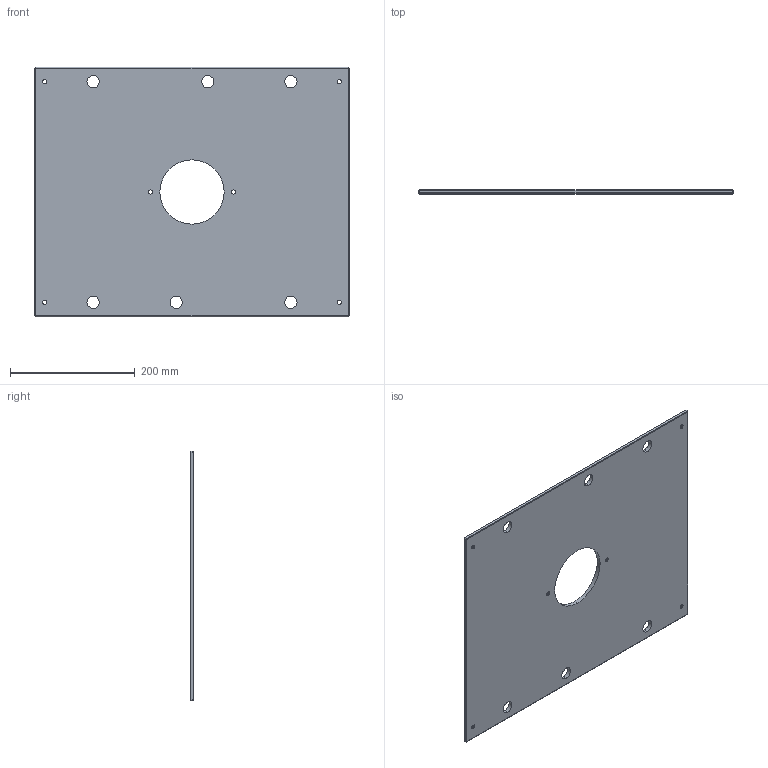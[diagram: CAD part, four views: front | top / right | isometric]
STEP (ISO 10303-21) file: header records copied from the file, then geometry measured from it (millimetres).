
FILE_DESCRIPTION (( 'STEP AP214' ), '1' );
FILE_NAME ('ME-0619-CH-1620-B.STEP', '2020-02-11T16:43:35', ( '' ), ( '' ), 'SwSTEP 2.0', 'SolidWorks 2018', '' );
FILE_SCHEMA (( 'AUTOMOTIVE_DESIGN' ));
Length unit declared in the file: inch
Products named in the file (1): ME-0619-CH-1620-B
Bounding box: 504.82 x 6.35 x 400.05 mm (x, y, z)
Volume: 1211881.5 mm3; surface area: 396920.7 mm2
Topology: 1 solids, 1 shells, 64 faces, 150 edges, 88 vertices
Faces by surface type: cylinder 26, plane 26, cone 12
Entity records: 1902 total; most frequent: DIRECTION 344, CARTESIAN_POINT 303, ORIENTED_EDGE 300, EDGE_CURVE 150, AXIS2_PLACEMENT_3D 129, EDGE_LOOP 90, VERTEX_POINT 88, LINE 86
